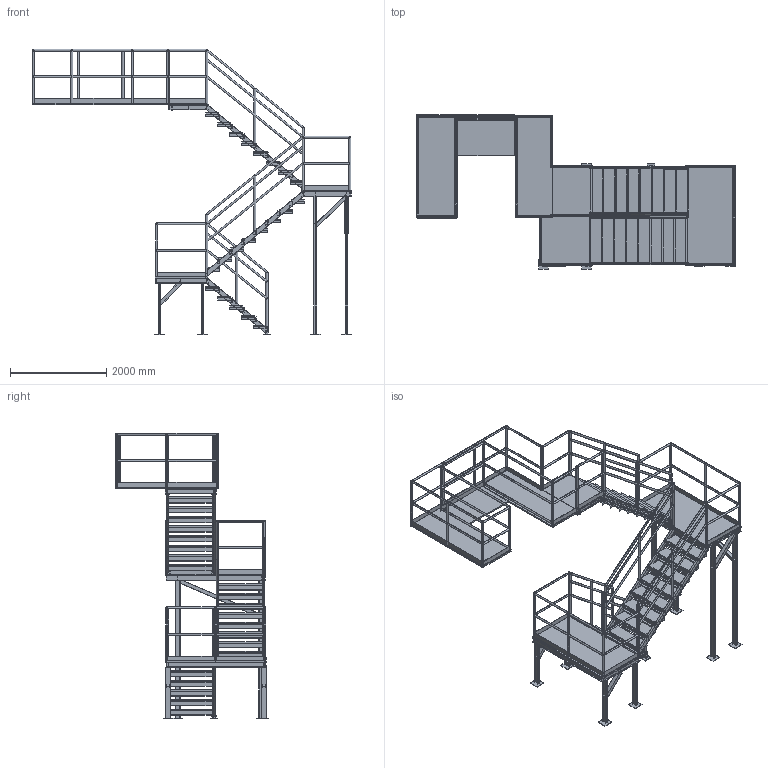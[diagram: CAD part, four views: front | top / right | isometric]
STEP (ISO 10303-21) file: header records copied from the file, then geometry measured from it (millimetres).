
FILE_DESCRIPTION (( 'STEP AP203' ), '1' );
FILE_NAME ('FD02.step', '2026-11-13T20:51:38', ( '' ), ( '' ), 'SwSTEP 2.0', 'SolidWorks 2026', '' );
FILE_SCHEMA (( 'CONFIG_CONTROL_DESIGN' ));
Products named in the file (1): FD02
Bounding box: 6611.2 x 3190 x 5921.2 mm (x, y, z)
Volume: 600628356.5 mm3; surface area: 108646384 mm2
Topology: 276 solids, 276 shells, 2080 faces, 4584 edges, 3056 vertices
Faces by surface type: plane 1620, cylinder 460
Entity records: 56871 total; most frequent: CARTESIAN_POINT 9721, DIRECTION 9666, ORIENTED_EDGE 9168, EDGE_CURVE 4584, LINE 3664, VECTOR 3664, VERTEX_POINT 3056, AXIS2_PLACEMENT_3D 3001
